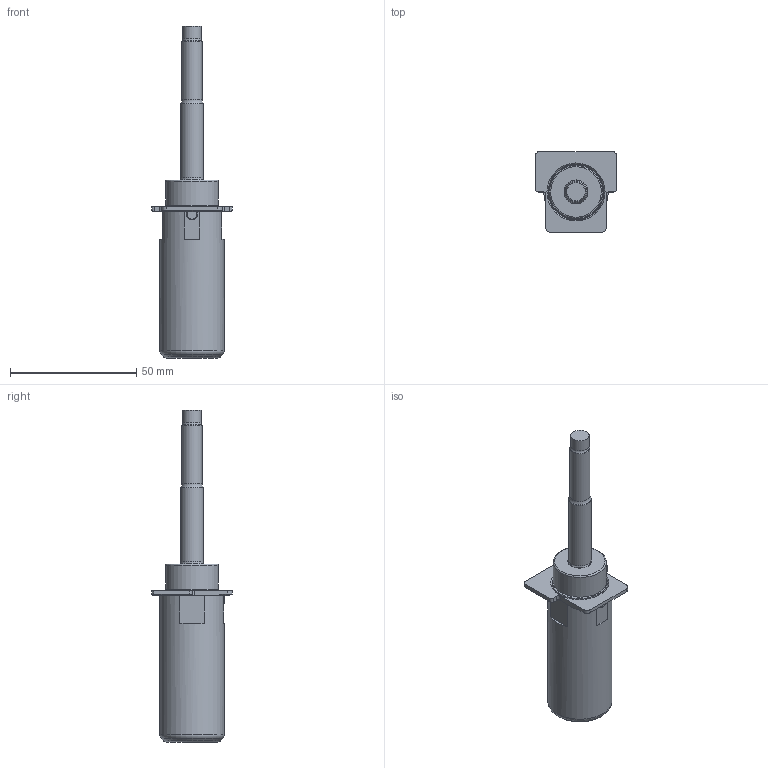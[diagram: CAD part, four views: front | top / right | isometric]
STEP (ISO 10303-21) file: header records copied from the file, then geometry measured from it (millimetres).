
FILE_DESCRIPTION(/* description */ ('Diese CAD-Daten sind urheberrechtlich geschützt. Das Urheberrecht liegt, soweit nicht ausdrücklich anders gekennzeichnet, bei Stöger Automation GmbH. Bitte fragen Sie uns, falls Sie die CAD-Daten vervielfältigen oder zum Download bereitstellen möchten. Sta','CAx-IF Rec.Pracs.---Representation and Presentation of Product Manufacturing Information (PMI)---4.0---2014-10-13'),/* implementation_level */ '2;1');
FILE_NAME(/* name */ 'C:\Users\sojer\Desktop\3D_Step_file_automatic_screwdriver_for_screws_RSP04_tool.stp',/* time_stamp */ '2020-03-18T15:20:44+01:00',/* author */ ('Stöger Automation GmbH'),/* organization */ ('Stöger Automation GmbH'),/* preprocessor_version */ 'ST-DEVELOPER v17',/* originating_system */ 'Autodesk Inventor 2018',/* authorisation */ '');
FILE_SCHEMA (('AP242_MANAGED_MODEL_BASED_3D_ENGINEERING_MIM_LF { 1 0 10303 442 1 1 4 }'));
Length unit declared in the file: millimetre
Products named in the file (1): MKTVER0217000101.ipt
Bounding box: 32 x 32 x 131.5 mm (x, y, z)
Volume: 37856.5 mm3; surface area: 10152.4 mm2
Topology: 1 solids, 1 shells, 75 faces, 202 edges, 133 vertices
Faces by surface type: plane 35, cylinder 18, cone 13, torus 8, bspline 1
Full cylindrical faces by diameter (mm): 4.5 x1, 7.3 x1, 8 x1, 9 x1, 9.5 x1, 21 x2, 25.5 x1
Entity records: 2522 total; most frequent: CARTESIAN_POINT 462, DIRECTION 436, ORIENTED_EDGE 404, EDGE_CURVE 202, AXIS2_PLACEMENT_3D 173, VERTEX_POINT 133, CIRCLE 96, LINE 90
